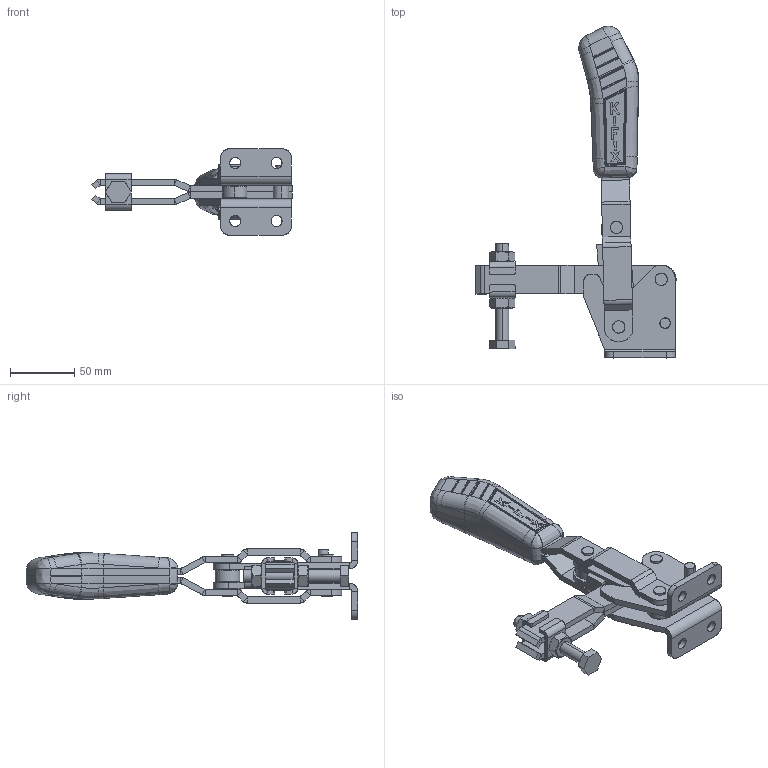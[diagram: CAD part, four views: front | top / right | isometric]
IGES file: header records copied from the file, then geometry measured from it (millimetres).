
Start section: SolidWorks IGES file using analytic representation for surfaces
Global section: file name: C:\Projetos\Grampos\KF-111\KF-111 DB\KF-111 DB.IGS; native system: SolidWorks 2013; preprocessor: SolidWorks 2013; author: Ricardo; date: 140728.155106; units: millimetre
Bounding box: 155.41 x 257.61 x 67 mm (x, y, z)
Surface area: 107689.8 mm2 (no closed solid volume)
Topology: 0 solids, 0 shells, 873 faces, 9212 edges, 9185 vertices
Faces by surface type: bspline 521, revolution 352
